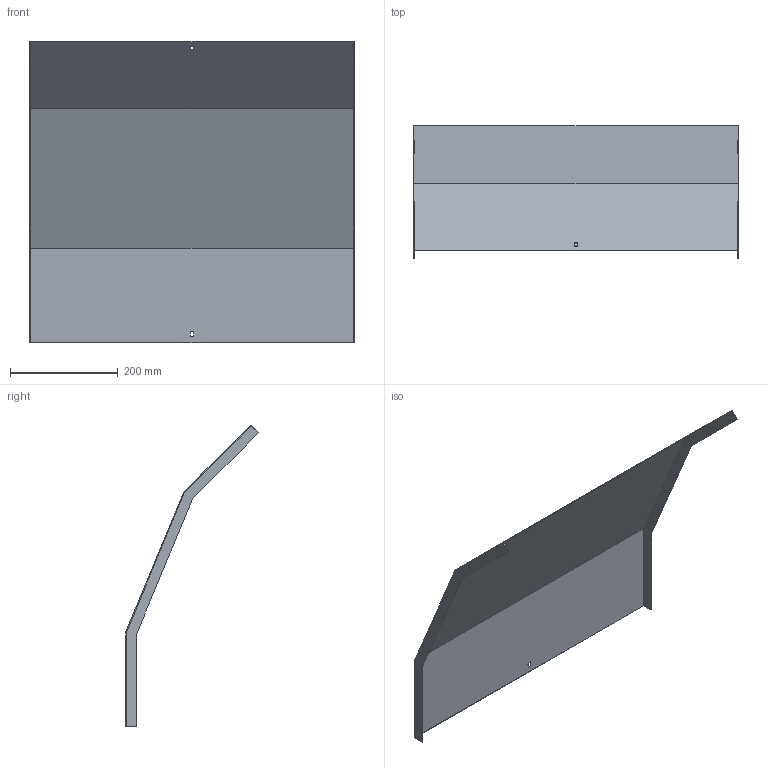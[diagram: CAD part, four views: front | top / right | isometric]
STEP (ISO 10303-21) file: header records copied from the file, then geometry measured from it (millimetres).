
FILE_DESCRIPTION (( 'STEP AP214' ), '1' );
FILE_NAME ('A2_34N3J600.step', '2025-02-21T10:35:32', ( '' ), ( '' ), 'SwSTEP 2.0', 'SolidWorks 2023', '' );
FILE_SCHEMA (( 'AUTOMOTIVE_DESIGN' ));
Length unit declared in the file: millimetre
Products named in the file (1): A2_34N3J600
Bounding box: 603 x 246.09 x 559.98 mm (x, y, z)
Volume: 606406.5 mm3; surface area: 812407.8 mm2
Topology: 1 solids, 1 shells, 26 faces, 72 edges, 48 vertices
Faces by surface type: plane 26
Entity records: 847 total; most frequent: CARTESIAN_POINT 147, ORIENTED_EDGE 144, DIRECTION 126, VECTOR 72, LINE 72, EDGE_CURVE 72, VERTEX_POINT 48, EDGE_LOOP 30
